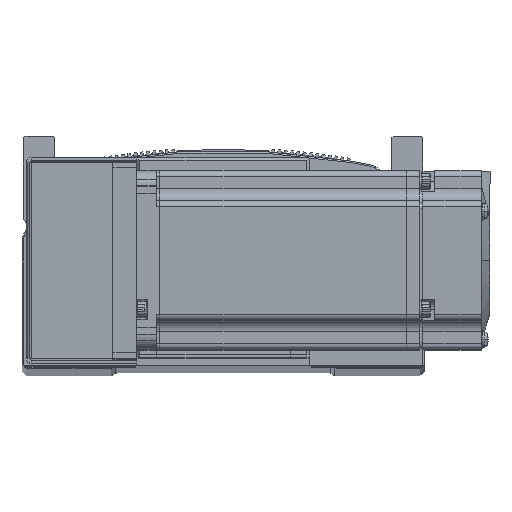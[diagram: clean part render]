
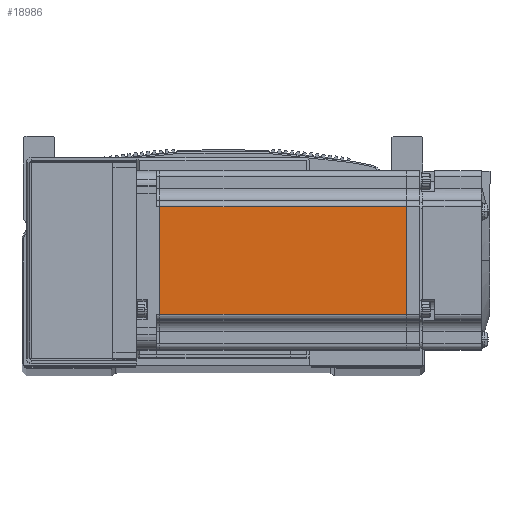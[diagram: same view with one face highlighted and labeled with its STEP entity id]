
A CAD part, top view. The second image highlights one B-rep face of the part: STEP entity #18986.
In plain terms, the highlighted planar face has unit normal (0, 0, 1) as drawn and (0, 0, -1) by its records, which use the part's own axes.
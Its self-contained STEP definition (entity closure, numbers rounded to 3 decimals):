
#16964 = LINE ( 'NONE', #59761, #16968 ) ;
#16968 = VECTOR ( 'NONE', #59769, 1000. ) ;
#16969 = VECTOR ( 'NONE', #59595, 1000. ) ;
#16972 = VECTOR ( 'NONE', #59973, 1000. ) ;
#16982 = LINE ( 'NONE', #59923, #16972 ) ;
#17023 = LINE ( 'NONE', #59637, #16969 ) ;
#17075 = LINE ( 'NONE', #59966, #17098 ) ;
#17098 = VECTOR ( 'NONE', #59904, 1000. ) ;
#18986 = ADVANCED_FACE ( 'NONE', ( #35040 ), #52495, .T. ) ;
#35040 = FACE_OUTER_BOUND ( 'NONE', #63119, .T. ) ;
#48629 = ORIENTED_EDGE ( 'NONE', *, *, #72462, .T. ) ;
#48663 = ORIENTED_EDGE ( 'NONE', *, *, #72474, .T. ) ;
#48769 = ORIENTED_EDGE ( 'NONE', *, *, #72457, .T. ) ;
#48794 = ORIENTED_EDGE ( 'NONE', *, *, #72435, .T. ) ;
#52495 = PLANE ( 'NONE',  #67287 ) ;
#52523 = DIRECTION ( 'NONE',  ( 0., 0., -1. ) ) ;
#52526 = DIRECTION ( 'NONE',  ( -1., 0., 0. ) ) ;
#52556 = CARTESIAN_POINT ( 'NONE',  ( -6.5, 25., -30. ) ) ;
#56519 = VERTEX_POINT ( 'NONE', #61504 ) ;
#56534 = VERTEX_POINT ( 'NONE', #61472 ) ;
#56541 = VERTEX_POINT ( 'NONE', #61492 ) ;
#56568 = VERTEX_POINT ( 'NONE', #61586 ) ;
#59595 = DIRECTION ( 'NONE',  ( -1., 0., 0. ) ) ;
#59637 = CARTESIAN_POINT ( 'NONE',  ( -6.5, -18., -30. ) ) ;
#59761 = CARTESIAN_POINT ( 'NONE',  ( -90.45, 25., -30. ) ) ;
#59769 = DIRECTION ( 'NONE',  ( 0., 1., 0. ) ) ;
#59904 = DIRECTION ( 'NONE',  ( 1., 0., 0. ) ) ;
#59923 = CARTESIAN_POINT ( 'NONE',  ( -7.75, 25., -30. ) ) ;
#59966 = CARTESIAN_POINT ( 'NONE',  ( -6.5, 18., -30. ) ) ;
#59973 = DIRECTION ( 'NONE',  ( 0., -1., 0. ) ) ;
#61472 = CARTESIAN_POINT ( 'NONE',  ( -7.75, -18., -30. ) ) ;
#61492 = CARTESIAN_POINT ( 'NONE',  ( -90.45, -18., -30. ) ) ;
#61504 = CARTESIAN_POINT ( 'NONE',  ( -90.45, 18., -30. ) ) ;
#61586 = CARTESIAN_POINT ( 'NONE',  ( -7.75, 18., -30. ) ) ;
#63119 = EDGE_LOOP ( 'NONE', ( #48629, #48794, #48769, #48663 ) ) ;
#67287 = AXIS2_PLACEMENT_3D ( 'NONE', #52556, #52523, #52526 ) ;
#72435 = EDGE_CURVE ( 'NONE', #56534, #56541, #17023, .T. ) ;
#72457 = EDGE_CURVE ( 'NONE', #56541, #56519, #16964, .T. ) ;
#72462 = EDGE_CURVE ( 'NONE', #56568, #56534, #16982, .T. ) ;
#72474 = EDGE_CURVE ( 'NONE', #56519, #56568, #17075, .T. ) ;
